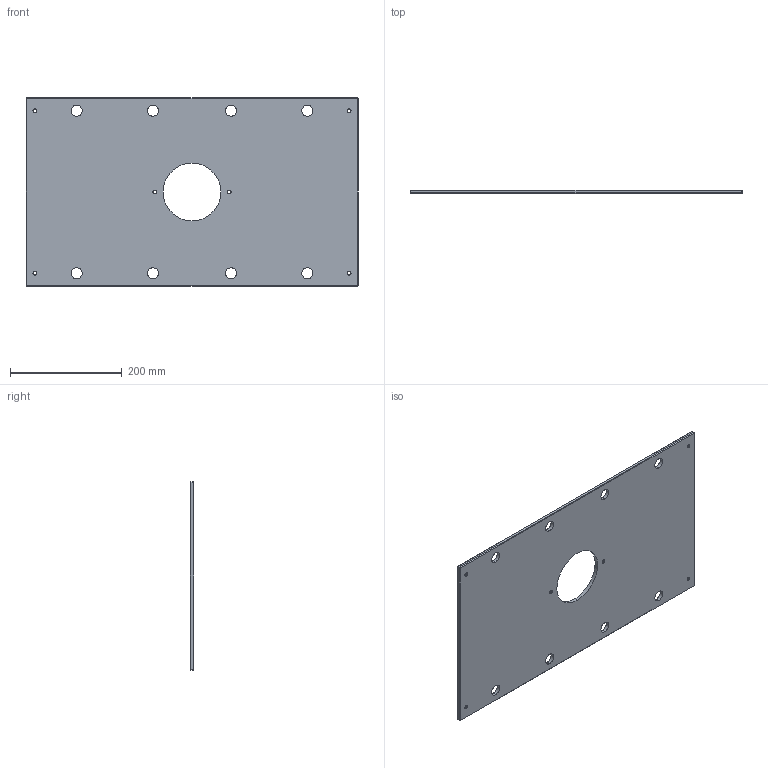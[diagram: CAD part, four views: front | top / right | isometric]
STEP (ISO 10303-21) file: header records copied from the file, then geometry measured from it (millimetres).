
FILE_DESCRIPTION (( 'STEP AP214' ), '1' );
FILE_NAME ('ME-0619-CH-1323.STEP', '2020-02-11T14:00:13', ( '' ), ( '' ), 'SwSTEP 2.0', 'SolidWorks 2018', '' );
FILE_SCHEMA (( 'AUTOMOTIVE_DESIGN' ));
Length unit declared in the file: inch
Products named in the file (1): ME-0619-CH-1323
Bounding box: 593.73 x 6.35 x 336.55 mm (x, y, z)
Volume: 1194301.3 mm3; surface area: 392448.2 mm2
Topology: 1 solids, 1 shells, 68 faces, 162 edges, 96 vertices
Faces by surface type: cylinder 30, plane 26, cone 12
Entity records: 2050 total; most frequent: DIRECTION 372, CARTESIAN_POINT 327, ORIENTED_EDGE 324, EDGE_CURVE 162, AXIS2_PLACEMENT_3D 141, EDGE_LOOP 98, VERTEX_POINT 96, LINE 90
